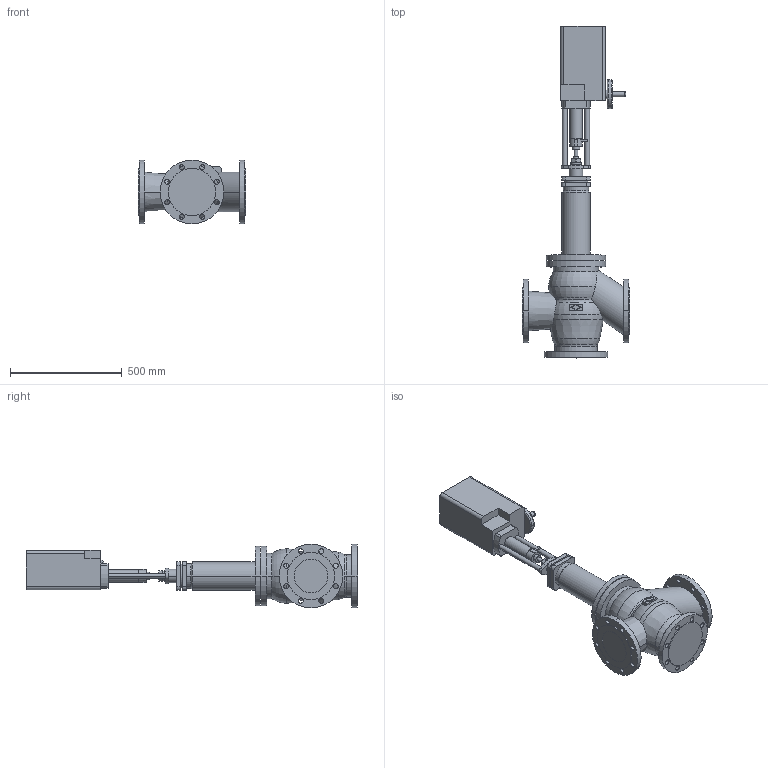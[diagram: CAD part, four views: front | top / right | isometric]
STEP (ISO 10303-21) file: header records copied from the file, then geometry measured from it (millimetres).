
FILE_DESCRIPTION(('OneSpaceDesigner STEP Export'),'2;1');
FILE_NAME('c000002460.stp','2007-01-26T13:17:39',(''),(''),'OneSpace Designer STEP processor for AP214 (Solid Model)','OneSpace Designer 14.00B 27-May-2006 (C) CoCreate Software GmbH','');
FILE_SCHEMA(('AUTOMOTIVE_DESIGN { 1 0 10303 214 1 1 1 1 }'));
Length unit declared in the file: millimetre
Products named in the file (2): 1; 2
Bounding box: 480 x 1483.7 x 285 mm (x, y, z)
Volume: 45553286.2 mm3; surface area: 1550711.7 mm2
Topology: 2 solids, 2 shells, 269 faces, 665 edges, 438 vertices
Faces by surface type: cylinder 132, plane 109, torus 22, cone 6
Entity records: 7544 total; most frequent: CARTESIAN_POINT 1507, ORIENTED_EDGE 1330, DIRECTION 1123, EDGE_CURVE 665, VERTEX_POINT 438, AXIS2_PLACEMENT_3D 410, EDGE_LOOP 355, VECTOR 303
